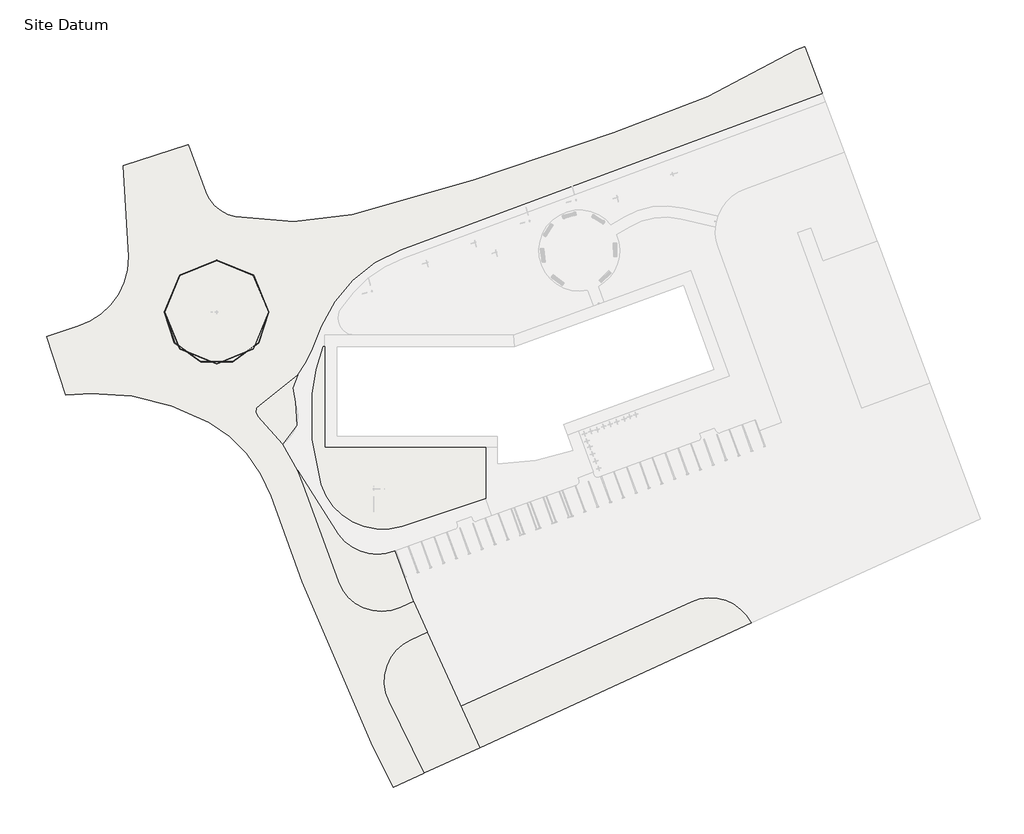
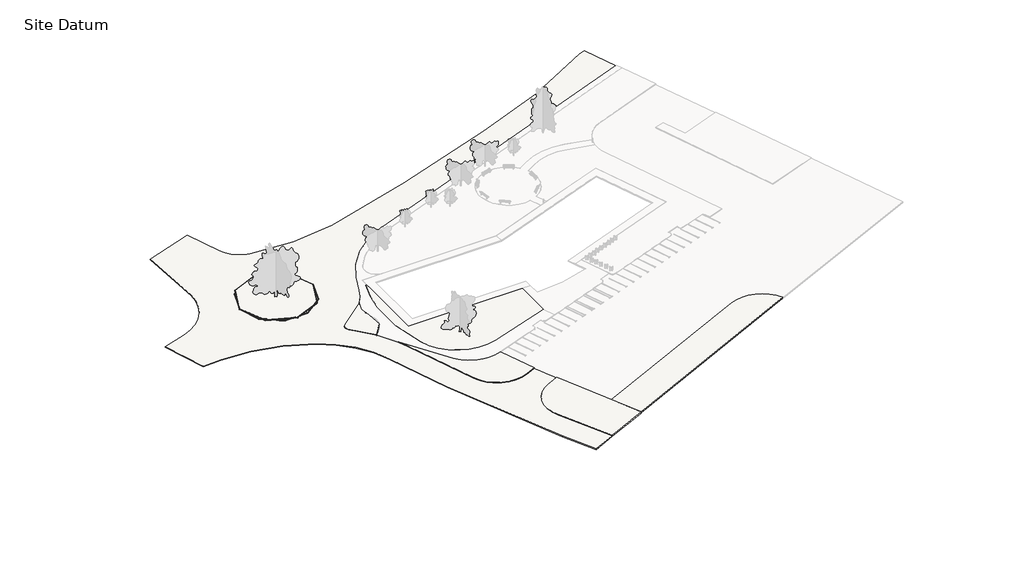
# One storey, part 1 of 3: 6 slabs, 1 proxy.
"""IFC4 building model written with IfcOpenShell, lengths in millimetres."""

import ifcopenshell
import ifcopenshell.guid

model = None  # the IFC model being written
_history = None  # IfcOwnerHistory: only IFC2X3 demands one
_inside = {}  # id of a spatial element -> (the spatial element, [elements in it])
_under = {}  # id of a project, library or spatial element -> (it, [spatial elements below it])
_declared = {}  # id of a project -> (the project, [libraries it declares])
_typed = {}  # id of a type object -> (the type object, [elements of that type])
_made_of = {}  # id of a material, layer set ... -> (it, [elements and type objects made of it])


def new_model(schema):
    """Start an empty IFC model of exactly this schema.

    Asked for "IFC4X3", IfcOpenShell would pick the latest addendum, in which some entities
    have other attributes; the version numbers below select the first issue.
    IFC2X3 requires an IfcOwnerHistory on every rooted entity: one is made here for all.
    """
    global model, _history
    if schema == "IFC4X3":
        model = ifcopenshell.file(schema_version=(4, 3, 0, 0))
    else:
        model = ifcopenshell.file(schema=schema)
    _inside.clear()
    _under.clear()
    _declared.clear()
    _typed.clear()
    _made_of.clear()
    _history = None
    if model.schema == "IFC2X3":
        org = make("IfcOrganization", Name="unknown")
        user = make(
            "IfcPersonAndOrganization",
            ThePerson=make("IfcPerson", FamilyName="unknown"),
            TheOrganization=org,
        )
        app = make(
            "IfcApplication",
            ApplicationDeveloper=org,
            Version="unknown",
            ApplicationFullName="unknown",
            ApplicationIdentifier="unknown",
        )
        _history = make(
            "IfcOwnerHistory",
            OwningUser=user,
            OwningApplication=app,
            ChangeAction="ADDED",
            CreationDate=0,
        )
    return model


def make(cls, **values):
    """One entity of the class cls with the attributes given. An attribute that is None is left unset."""
    return model.create_entity(
        cls, **{name: value for name, value in values.items() if value is not None}
    )


def rooted(cls, **values):
    """An entity with a GlobalId (a new one), such as an element, a storey or a relation."""
    return make(cls, GlobalId=ifcopenshell.guid.new(), OwnerHistory=_history, **values)


def si_unit(unit_type, name, prefix=None):
    """IfcSIUnit, for example si_unit("LENGTHUNIT", "METRE", prefix="MILLI")."""
    return make("IfcSIUnit", UnitType=unit_type, Prefix=prefix, Name=name)


def assignment(units):
    """IfcUnitAssignment: the units of a project."""
    return None if units is None else make("IfcUnitAssignment", Units=units)


def point(xyz):
    """IfcCartesianPoint."""
    return None if xyz is None else make("IfcCartesianPoint", Coordinates=xyz)


def direction(xyz):
    """IfcDirection."""
    return None if xyz is None else make("IfcDirection", DirectionRatios=xyz)


def frame(location, z_axis=None, x_axis=None):
    """IfcAxis2Placement3D, a coordinate frame: its origin and axes. An axis left out is left unset."""
    return make(
        "IfcAxis2Placement3D",
        Location=point(location),
        Axis=direction(z_axis),
        RefDirection=direction(x_axis),
    )


def frame_2d(location, x_axis=None):
    """IfcAxis2Placement2D, a coordinate frame in the plane: its origin and x axis."""
    return make(
        "IfcAxis2Placement2D", Location=point(location), RefDirection=direction(x_axis)
    )


def origin():
    """The frame at (0, 0, 0) with its axes left unset."""
    return frame((0.0, 0.0, 0.0))


def place(relative_to, where):
    """IfcLocalPlacement: puts the frame where relative to a parent placement (None: the world)."""
    return make(
        "IfcLocalPlacement", PlacementRelTo=relative_to, RelativePlacement=where
    )


def context(
    kind, dimensions, precision=None, world=None, true_north=None, identifier=None
):
    """IfcGeometricRepresentationContext, for example the 3D "Model" context."""
    return make(
        "IfcGeometricRepresentationContext",
        ContextIdentifier=identifier,
        ContextType=kind,
        CoordinateSpaceDimension=dimensions,
        Precision=precision,
        WorldCoordinateSystem=world,
        TrueNorth=true_north,
    )


def project(units=None, contexts=None):
    """IfcProject with its units and contexts."""
    return rooted(
        "IfcProject",
        Name="project",
        RepresentationContexts=contexts,
        UnitsInContext=assignment(units),
    )


def spatial(cls, under=None, at=None, **own):
    """A site, building, storey or space (cls), placed at a placement, below another one or the project."""
    s = rooted(cls, ObjectPlacement=at, **own)
    if under is not None:
        _under.setdefault(under.id(), (under, []))[1].append(s)
    return s


def polyline(points):
    """IfcPolyline through the points."""
    return make("IfcPolyline", Points=[point(p) for p in points])


def circle_curve(where, radius):
    """IfcCircle in the frame where."""
    return make("IfcCircle", Position=where, Radius=radius)


def ellipse_curve(where, semi_axis1, semi_axis2):
    """IfcEllipse in the frame where."""
    return make(
        "IfcEllipse", Position=where, SemiAxis1=semi_axis1, SemiAxis2=semi_axis2
    )


def trimmed(basis, trim1, trim2, sense, master):
    """IfcTrimmedCurve: the piece of a basis curve between two trims."""
    return make(
        "IfcTrimmedCurve",
        BasisCurve=basis,
        Trim1=trim1,
        Trim2=trim2,
        SenseAgreement=sense,
        MasterRepresentation=master,
    )


def segment(curve, same_sense, transition):
    """IfcCompositeCurveSegment."""
    return make(
        "IfcCompositeCurveSegment",
        Transition=transition,
        SameSense=same_sense,
        ParentCurve=curve,
    )


def composite_curve(segments, self_intersect=None):
    """IfcCompositeCurve: segments joined end to end."""
    return make("IfcCompositeCurve", Segments=segments, SelfIntersect=self_intersect)


def outline(outer, holes=None, kind="AREA"):
    """IfcArbitraryClosedProfileDef: a profile drawn as a closed curve; with holes, ...WithVoids."""
    if holes is None:
        return make("IfcArbitraryClosedProfileDef", ProfileType=kind, OuterCurve=outer)
    return make(
        "IfcArbitraryProfileDefWithVoids",
        ProfileType=kind,
        OuterCurve=outer,
        InnerCurves=holes,
    )


def extrude(swept, where, along, depth):
    """IfcExtrudedAreaSolid: the profile swept, set in the frame where, extruded along a direction by depth."""
    return make(
        "IfcExtrudedAreaSolid",
        SweptArea=swept,
        Position=where,
        ExtrudedDirection=direction(along),
        Depth=depth,
    )


def shape(context_of_items, identifier, shape_type, items):
    """IfcShapeRepresentation: the items that make up one representation, for example the "Body"."""
    return make(
        "IfcShapeRepresentation",
        ContextOfItems=context_of_items,
        RepresentationIdentifier=identifier,
        RepresentationType=shape_type,
        Items=items,
    )


def made_of(thing, what):
    """Note that an element or type object is made of a material, layer set ...; save() writes the relation."""
    if what is not None:
        _made_of.setdefault(what.id(), (what, []))[1].append(thing)
    return thing


def element(
    cls,
    number,
    at=None,
    inside=None,
    cuts=None,
    type_object=None,
    material=None,
    context=None,
    identifier="Body",
    shape_type=None,
    held_by="IfcProductDefinitionShape",
    body=None,
    shapes=None,
    **own,
):
    """One element of the class cls, such as IfcWall. Its Tag is "e" and its number.

    at: its placement. inside: the storey or other place that contains it. cuts: it is an
    opening in that element (IfcRelVoidsElement). A single representation is given by context,
    identifier, shape_type and body (its items); several are given by shapes. held_by: the class
    of the entity that holds the representations. save() writes the other relations.
    """
    e = rooted(cls, Tag="e%d" % number, ObjectPlacement=at, **own)
    if body is not None:
        shapes = [shape(context, identifier, shape_type, body)]
    if shapes is not None:
        e.Representation = make(held_by, Representations=shapes)
    if inside is not None:
        _inside.setdefault(inside.id(), (inside, []))[1].append(e)
    if cuts is not None:
        rooted(
            "IfcRelVoidsElement", RelatingBuildingElement=cuts, RelatedOpeningElement=e
        )
    if type_object is not None:
        _typed.setdefault(type_object.id(), (type_object, []))[1].append(e)
    return made_of(e, material)


def aggregate(whole, parts):
    """IfcRelAggregates: a whole, such as a stair, and the parts it consists of."""
    return rooted("IfcRelAggregates", RelatingObject=whole, RelatedObjects=parts)


def save(model, path):
    """Write the relations noted so far, then the file.

    IfcRelAggregates (storeys below a building ...), IfcRelContainedInSpatialStructure (elements
    in a storey), IfcRelDefinesByType, IfcRelAssociatesMaterial and IfcRelDeclares: one each for
    every whole, place, type object, material and project.
    """
    for whole, parts in _under.values():
        aggregate(whole, parts)
    for where, things in _inside.values():
        rooted(
            "IfcRelContainedInSpatialStructure",
            RelatedElements=things,
            RelatingStructure=where,
        )
    for kind, things in _typed.values():
        rooted("IfcRelDefinesByType", RelatedObjects=things, RelatingType=kind)
    for what, things in _made_of.values():
        rooted("IfcRelAssociatesMaterial", RelatedObjects=things, RelatingMaterial=what)
    for by, libraries in _declared.values():
        rooted("IfcRelDeclares", RelatingContext=by, RelatedDefinitions=libraries)
    model.write(path)


def plane_surface(at):
    """IfcPlane: the flat surface through the origin of the frame at, square to its z axis."""
    return make("IfcPlane", Position=at)


def cylinder_surface(at, radius):
    """IfcCylindricalSurface: all points at the distance radius from the z axis of the frame at."""
    return make("IfcCylindricalSurface", Position=at, Radius=radius)


def revolved_surface(curve, axis_point, axis_direction):
    """IfcSurfaceOfRevolution: the curve turned about the line through axis_point along axis_direction."""
    return make(
        "IfcSurfaceOfRevolution",
        SweptCurve=make("IfcArbitraryOpenProfileDef", ProfileType="CURVE", Curve=curve),
        AxisPosition=make("IfcAxis1Placement", Location=point(axis_point), Axis=direction(axis_direction)),
    )


def advanced_brep(points, edges, surfaces, faces):
    """IfcAdvancedBrep: a solid bounded by faces that lie on surfaces and meet in shared edges.

    An edge is (start, end): straight between two places in points (the first is 0);
    or (start, end, curve); or (start, end, curve, False) where it runs against its curve.
    A face is (place in surfaces, loops), or (place, loops, False) where it looks against
    its surface's normal. A loop lists edges by number (the first is 1), with a minus sign
    where the edge is run from its end to its start. The first loop is the outer one.
    """
    corners = [point(p) for p in points]
    vertices = [make("IfcVertexPoint", VertexGeometry=c) for c in corners]
    made = []
    for start, end, *more in edges:
        made.append(
            make(
                "IfcEdgeCurve",
                EdgeStart=vertices[start],
                EdgeEnd=vertices[end],
                EdgeGeometry=more[0] if more else make("IfcPolyline", Points=[corners[start], corners[end]]),
                SameSense=more[1] if len(more) > 1 else True,
            )
        )
    hull = []
    for where, loops, *sense in faces:
        bounds = []
        for j, loop in enumerate(loops):
            ring = [make("IfcOrientedEdge", EdgeElement=made[abs(k) - 1], Orientation=k > 0) for k in loop]
            bounds.append(
                make(
                    "IfcFaceOuterBound" if j == 0 else "IfcFaceBound",
                    Bound=make("IfcEdgeLoop", EdgeList=ring),
                    Orientation=True,
                )
            )
        hull.append(make("IfcAdvancedFace", Bounds=bounds, FaceSurface=surfaces[where], SameSense=sense[0] if sense else True))
    return make("IfcAdvancedBrep", Outer=make("IfcClosedShell", CfsFaces=hull))


model = new_model("IFC4")

# Units and contexts
model_context = context("Model", 3, world=origin())
ifc_project = project(units=[si_unit("LENGTHUNIT", "METRE", prefix="MILLI")], contexts=[model_context])

# Site, building, storey
site = spatial("IfcSite", under=ifc_project)
building = spatial("IfcBuilding", under=site)
storey = spatial("IfcBuildingStorey", under=building, Name="Site Datum", Elevation=-150.0)

# Proxy
placement = place(None, origin())
element("IfcBuildingElementProxy", 1, Name="Kerb-45deg-Splay", ObjectType="Kerb-45deg-Splay", at=placement, inside=storey, context=model_context, shape_type="AdvancedBrep", body=[
    advanced_brep(
    [(-30189.953306, 21747.745805, -225.0), (-30189.953306, 21747.745805, -375.0), (-11829.379772, 21747.745805, -375.0), (-11829.379772, 21747.745805, -225.0), (-30185.2670145, 21747.745805, -212.5052912), (-11834.0660635, 21747.745805, -212.5052912), (-30127.4480148, 21747.745805, -154.6862915), (-11891.8850632, 21747.745805, -154.6862915), (-30114.953306, 21747.745805, -150.0), (-11904.379772, 21747.745805, -150.0), (-30064.953306, 21747.745805, -150.0), (-11954.379772, 21747.745805, -150.0), (-30064.953306, 21747.745805, -375.0), (-11954.379772, 21747.745805, -375.0)],
    [
        (0, 1),
        (1, 2, circle_curve(frame((-21009.666539, 21747.745805, -375.0), z_axis=(0.0, 0.0, 1.0), x_axis=(-1.0, 0.0, 0.0)), 9180.286767)),
        (2, 3),
        (3, 0, circle_curve(frame((-21009.666539, 21747.745805, -225.0), z_axis=(0.0, 0.0, -1.0), x_axis=(-1.0, 0.0, 0.0)), 9180.286767)),
        (4, 0, circle_curve(frame((-30170.953306, 21747.745805, -225.0), z_axis=(0.0, -1.0, 0.0), x_axis=(-1.0, 0.0, 0.0)), 19.0)),
        (3, 5, circle_curve(frame((-11848.379772, 21747.745805, -225.0), z_axis=(0.0, -1.0, 0.0), x_axis=(1.0, 0.0, 0.0)), 19.0)),
        (5, 4, circle_curve(frame((-21009.666539, 21747.745805, -212.5052912), z_axis=(0.0, 0.0, -1.0), x_axis=(-1.0, 0.0, 0.0)), 9175.6004755)),
        (6, 4),
        (5, 7),
        (7, 6, circle_curve(frame((-21009.666539, 21747.745805, -154.6862915), z_axis=(0.0, 0.0, -1.0), x_axis=(-1.0, 0.0, 0.0)), 9117.7814758)),
        (8, 6, circle_curve(frame((-30114.953306, 21747.745805, -169.0), z_axis=(0.0, -1.0, 0.0), x_axis=(-1.0, 0.0, 0.0)), 19.0)),
        (7, 9, circle_curve(frame((-11904.379772, 21747.745805, -169.0), z_axis=(0.0, -1.0, 0.0), x_axis=(1.0, 0.0, 0.0)), 19.0)),
        (9, 8, circle_curve(frame((-21009.666539, 21747.745805, -150.0), z_axis=(0.0, 0.0, -1.0), x_axis=(-1.0, 0.0, 0.0)), 9105.286767)),
        (10, 8),
        (9, 11),
        (11, 10, circle_curve(frame((-21009.666539, 21747.745805, -150.0), z_axis=(0.0, 0.0, -1.0), x_axis=(-1.0, 0.0, 0.0)), 9055.286767)),
        (12, 10),
        (11, 13),
        (13, 12, circle_curve(frame((-21009.666539, 21747.745805, -375.0), z_axis=(0.0, 0.0, -1.0), x_axis=(-1.0, 0.0, 0.0)), 9055.286767)),
        (1, 12),
        (13, 2),
        (0, 3, circle_curve(frame((-21009.666539, 21747.745805, -225.0), z_axis=(0.0, 0.0, -1.0), x_axis=(1.0, 0.0, 0.0)), 9180.286767)),
        (2, 1, circle_curve(frame((-21009.666539, 21747.745805, -375.0), z_axis=(0.0, 0.0, 1.0), x_axis=(1.0, 0.0, 0.0)), 9180.286767)),
        (4, 5, circle_curve(frame((-21009.666539, 21747.745805, -212.5052912), z_axis=(0.0, 0.0, -1.0), x_axis=(1.0, 0.0, 0.0)), 9175.6004755)),
        (6, 7, circle_curve(frame((-21009.666539, 21747.745805, -154.6862915), z_axis=(0.0, 0.0, -1.0), x_axis=(1.0, 0.0, 0.0)), 9117.7814758)),
        (8, 9, circle_curve(frame((-21009.666539, 21747.745805, -150.0), z_axis=(0.0, 0.0, -1.0), x_axis=(1.0, 0.0, 0.0)), 9105.286767)),
        (10, 11, circle_curve(frame((-21009.666539, 21747.745805, -150.0), z_axis=(0.0, 0.0, -1.0), x_axis=(1.0, 0.0, 0.0)), 9055.286767)),
        (12, 13, circle_curve(frame((-21009.666539, 21747.745805, -375.0), z_axis=(0.0, 0.0, -1.0), x_axis=(1.0, 0.0, 0.0)), 9055.286767)),
    ],
    [
        cylinder_surface(frame((-21009.666539, 21747.745805, -150.0), z_axis=(0.0, 0.0, 1.0), x_axis=(-1.0, 0.0, 0.0)), 9180.286767),
        revolved_surface(trimmed(ellipse_curve(frame((-30170.953306, 21747.745805, -225.0), z_axis=(0.0, 1.0, 0.0), x_axis=(-1.0, 0.0, 0.0)), 19.0, 19.0), [point((-30189.953306, 21747.745805, -225.0))], [point((-30185.2670145, 21747.745805, -212.5052912))], True, "CARTESIAN"), (-21009.666539, 21747.745805, -150.0), (0.0, 0.0, 1.0)),
        revolved_surface(polyline([(-30185.2670145, 21747.745805, -212.5052912), (-30127.4480148, 21747.745805, -154.6862915)]), (-21009.666539, 21747.745805, -150.0), (0.0, 0.0, 1.0)),
        revolved_surface(trimmed(ellipse_curve(frame((-30114.953306, 21747.745805, -169.0), z_axis=(0.0, 1.0, 0.0), x_axis=(-1.0, 0.0, 0.0)), 19.0, 19.0), [point((-30127.4480148, 21747.745805, -154.6862915))], [point((-30114.953306, 21747.745805, -150.0))], True, "CARTESIAN"), (-21009.666539, 21747.745805, -150.0), (0.0, 0.0, 1.0)),
        plane_surface(frame((-21009.666539, 21747.745805, -150.0), z_axis=(0.0, 0.0, 1.0), x_axis=(-1.0, 0.0, 0.0))),
        revolved_surface(polyline([(-30064.953306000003, 21747.745805, -150.0), (-30064.953306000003, 21747.745805, -375.0)]), (-21009.666539, 21747.745805, -150.0), (0.0, 0.0, 1.0)),
        plane_surface(frame((-21009.666539, 21747.745805, -375.0), z_axis=(0.0, 0.0, -1.0), x_axis=(-1.0, 0.0, 0.0))),
        cylinder_surface(frame((-21009.666539, 21747.745805, -150.0), z_axis=(0.0, 0.0, 1.0), x_axis=(1.0, 0.0, 0.0)), 9180.286767),
        revolved_surface(trimmed(ellipse_curve(frame((-11848.379772, 21747.745805, -225.0), z_axis=(0.0, -1.0, 0.0), x_axis=(1.0, 0.0, 0.0)), 19.0, 19.0), [point((-11829.379772, 21747.745805, -225.0))], [point((-11834.0660635, 21747.745805, -212.5052912))], True, "CARTESIAN"), (-21009.666539, 21747.745805, -150.0), (0.0, 0.0, 1.0)),
        revolved_surface(polyline([(-11834.0660635, 21747.745805, -212.5052912), (-11891.8850632, 21747.745805, -154.6862915)]), (-21009.666539, 21747.745805, -150.0), (0.0, 0.0, 1.0)),
        revolved_surface(trimmed(ellipse_curve(frame((-11904.379772, 21747.745805, -169.0), z_axis=(0.0, -1.0, 0.0), x_axis=(1.0, 0.0, 0.0)), 19.0, 19.0), [point((-11891.8850632, 21747.745805, -154.6862915))], [point((-11904.379772, 21747.745805, -150.0))], True, "CARTESIAN"), (-21009.666539, 21747.745805, -150.0), (0.0, 0.0, 1.0)),
        plane_surface(frame((-21009.666539, 21747.745805, -150.0), z_axis=(0.0, 0.0, 1.0), x_axis=(1.0, 0.0, 0.0))),
        revolved_surface(polyline([(-11954.379772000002, 21747.745805, -150.0), (-11954.379772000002, 21747.745805, -375.0)]), (-21009.666539, 21747.745805, -150.0), (0.0, 0.0, 1.0)),
        plane_surface(frame((-21009.666539, 21747.745805, -375.0), z_axis=(0.0, 0.0, -1.0), x_axis=(1.0, 0.0, 0.0))),
    ],
    [
        (0, [[1, 2, 3, 4]]),
        (1, [[5, -4, 6, 7]]),
        (2, [[8, -7, 9, 10]]),
        (3, [[11, -10, 12, 13]]),
        (4, [[14, -13, 15, 16]]),
        (5, [[17, -16, 18, 19]]),
        (6, [[20, -19, 21, -2]]),
        (7, [[-1, 22, -3, 23]]),
        (8, [[-5, 24, -6, -22]]),
        (9, [[-8, 25, -9, -24]]),
        (10, [[-11, 26, -12, -25]]),
        (11, [[-14, 27, -15, -26]]),
        (12, [[-17, 28, -18, -27]]),
        (13, [[-20, -23, -21, -28]]),
    ],
),
])

# Slabs
element("IfcSlab", 2, ObjectType="HW - Tarmac", at=placement, inside=storey, context=model_context, shape_type="AdvancedBrep", body=[
    advanced_brep(
    [(11319.0750339, 32678.6820825, -450.0), (-2533.7024757, 19294.6457134, -450.0), (-4338.020815, 14901.1084697, -450.0), (-6782.3087816, 10684.1792377, -450.0), (-13370.6260261, 5423.9817174, -450.0), (-13677.6033933, 3456.8833973, -450.0), (-9435.7614518, -1426.1466285, -450.0), (-6798.1354124, -6055.3212881, -450.0), (-5799.3897827, -8524.9988525, -450.0), (396.8756219, -25549.0981323, -450.0), (11218.1465084, -30098.9076557, -450.0), (13513.7889112, -29057.9780616, -450.0), (15991.5863514, -34522.4560646, -450.0), (13141.7967993, -35814.6565738, -450.0), (9263.9835505, -46625.6006781, -450.0), (15449.4516331, -59227.4562362, -450.0), (10003.3009777, -61731.3795276, -450.0), (6179.6913486, -53910.7441689, -450.0), (-5959.7550469, -25627.2253077, -450.0), (-11447.5954439, -10549.507739, -450.0), (-22291.0278787, 2361.3263834, -450.0), (-43022.1126544, 7417.6536252, -450.0), (-47499.188275, 7193.1361933, -450.0), (-50887.1541564, 17493.3754096, -450.0), (-45331.0553512, 19280.9821646, -450.0), (-36432.3803321, 31485.1718586, -450.0), (-37379.0644467, 47476.0554047, -450.0), (-25967.6955075, 51229.4952825, -450.0), (-22901.7336554, 42887.2653682, -450.0), (-17701.7232788, 38523.9385795, -450.0), (2798.2323826, 38874.336945, -450.0), (24093.7234117, 44975.2730799, -450.0), (48744.4877531, 53268.1784141, -450.0), (80861.329586, 67913.9685703, -450.0), (82285.2748138, 68442.2521432, -450.0), (85362.1920702, 60148.6729587, -450.0), (11319.0750339, 32678.6820825, -300.0), (85362.1920702, 60148.6729587, -300.0), (85318.7129019, 60265.8675061, -300.0), (82285.2748138, 68442.2521432, -300.0), (80861.329586, 67913.9685703, -300.0), (48744.4877531, 53268.1784141, -300.0), (24093.7234117, 44975.2730799, -300.0), (2798.2323826, 38874.336945, -300.0), (-17701.7232788, 38523.9385795, -300.0), (-22901.7336556, 42887.2653682, -300.0), (-25967.6955075, 51229.4952825, -300.0), (-37379.0644467, 47476.0554047, -300.0), (-36432.3803321, 31485.1718586, -300.0), (-45331.0553512, 19280.9821647, -300.0), (-50887.1541564, 17493.3754096, -300.0), (-47499.188275, 7193.1361933, -300.0), (-43022.1126544, 7417.6536252, -300.0), (-22291.0278788, 2361.3263834, -300.0), (-11447.5954439, -10549.507739, -300.0), (-5959.7550469, -25627.2253077, -300.0), (6179.6913486, -53910.7441689, -300.0), (10003.3009777, -61731.3795276, -300.0), (15335.8434861, -59279.6887401, -300.0), (15449.4516331, -59227.4562362, -300.0), (9263.9835505, -46625.6006781, -300.0), (13141.7967993, -35814.6565738, -300.0), (15991.5863514, -34522.4560646, -300.0), (15939.9655714, -34408.6127729, -300.0), (13565.4096912, -29171.8213534, -300.0), (13513.7889112, -29057.9780616, -300.0), (11218.1465084, -30098.9076557, -300.0), (396.8756219, -25549.0981323, -300.0), (-5799.3897827, -8524.9988525, -300.0), (-6798.1354124, -6055.3212881, -300.0), (-9435.7614518, -1426.1466285, -300.0), (-13677.6033932, 3456.8833973, -300.0), (-13370.6260261, 5423.9817174, -300.0), (-6782.3087816, 10684.1792377, -300.0), (-4338.020815, 14901.1084698, -300.0), (-2533.7024757, 19294.6457134, -300.0)],
    [
        (0, 1, circle_curve(frame((19667.0753449, 10177.3289941, -450.0), z_axis=(0.0, 0.0, 1.0), x_axis=(1.0, 0.0, 0.0)), 24000.0)),
        (1, 2),
        (2, 3, circle_curve(frame((-21009.666539, 21747.745805, -450.0), z_axis=(0.0, 0.0, -1.0), x_axis=(1.0, 0.0, 0.0)), 18022.7693195)),
        (3, 4, circle_curve(frame((-21009.666539, 21747.745805, -450.0), z_axis=(0.0, 0.0, -1.0), x_axis=(1.0, 0.0, 0.0)), 18022.7693195)),
        (4, 5, circle_curve(frame((-12862.0000512, 4337.1056354, -450.0), z_axis=(0.0, 0.0, 1.0), x_axis=(1.0, 0.0, 0.0)), 1200.0)),
        (5, 6, circle_curve(frame((-34025.202939, -18502.8226128, -450.0), z_axis=(0.0, 0.0, -1.0), x_axis=(1.0, 0.0, 0.0)), 29937.4931369)),
        (6, 7, circle_curve(frame((-34025.202939, -18502.8226128, -450.0), z_axis=(0.0, 0.0, -1.0), x_axis=(1.0, 0.0, 0.0)), 29937.4931369)),
        (7, 8, circle_curve(frame((-34025.202939, -18502.8226128, -450.0), z_axis=(0.0, 0.0, -1.0), x_axis=(1.0, 0.0, 0.0)), 29937.4931369)),
        (8, 9),
        (9, 10, circle_curve(frame((7914.4165879, -22812.9369851, -450.0), z_axis=(0.0, 0.0, 1.0), x_axis=(1.0, 0.0, 0.0)), 8000.0)),
        (10, 11),
        (11, 12),
        (12, 13),
        (13, 14, circle_curve(frame((16445.5267197, -43100.6272444, -450.0), z_axis=(0.0, 0.0, 1.0), x_axis=(1.0, 0.0, 0.0)), 8000.0)),
        (14, 15),
        (15, 16),
        (16, 17),
        (17, 18, circle_curve(frame((250755.3453379, 67809.4299406, -450.0), z_axis=(0.0, 0.0, -1.0), x_axis=(1.0, 0.0, 0.0)), 273190.5036958)),
        (18, 19),
        (19, 20, circle_curve(frame((-34025.202939, -18502.8226128, -450.0), z_axis=(0.0, 0.0, 1.0), x_axis=(1.0, 0.0, 0.0)), 23937.4931369)),
        (20, 21, circle_curve(frame((-41682.9014766, -32118.7233845, -450.0), z_axis=(0.0, 0.0, 1.0), x_axis=(1.0, 0.0, 0.0)), 39559.0519809)),
        (21, 22, circle_curve(frame((-38351.46427, -130469.8718581, -450.0), z_axis=(0.0, 0.0, 1.0), x_axis=(1.0, 0.0, 0.0)), 137966.6069751)),
        (22, 23),
        (23, 24, circle_curve(frame((89485.9913215, -409275.0834808, -450.0), z_axis=(0.0, 0.0, -1.0), x_axis=(1.0, 0.0, 0.0)), 449261.5468467)),
        (24, 25, circle_curve(frame((-49146.430137, 31409.28528, -450.0), z_axis=(0.0, 0.0, 1.0), x_axis=(1.0, 0.0, 0.0)), 12714.2762757)),
        (25, 26, circle_curve(frame((-187156.5339156, 30585.5418824, -450.0), z_axis=(0.0, 0.0, 1.0), x_axis=(1.0, 0.0, 0.0)), 150726.8383784)),
        (26, 27),
        (27, 28),
        (28, 29, circle_curve(frame((-16495.4811586, 45241.7108788, -450.0), z_axis=(0.0, 0.0, 1.0), x_axis=(1.0, 0.0, 0.0)), 6825.2094999)),
        (29, 30, circle_curve(frame((-8339.9186843, 90661.457678, -450.0), z_axis=(0.0, 0.0, 1.0), x_axis=(1.0, 0.0, 0.0)), 52971.3534187)),
        (30, 31, circle_curve(frame((-31901.3515832, 200210.9477904, -450.0), z_axis=(0.0, 0.0, 1.0), x_axis=(1.0, 0.0, 0.0)), 165025.946828)),
        (31, 32, circle_curve(frame((227805.9643753, -519778.0945272, -450.0), z_axis=(0.0, 0.0, -1.0), x_axis=(1.0, 0.0, 0.0)), 600370.7549023)),
        (32, 33, circle_curve(frame((6518.2197062, 188403.9205118, -450.0), z_axis=(0.0, 0.0, 1.0), x_axis=(1.0, 0.0, 0.0)), 141579.4000039)),
        (33, 34),
        (34, 35),
        (35, 0),
        (36, 37),
        (37, 38),
        (38, 39),
        (39, 40),
        (40, 41, circle_curve(frame((6518.2197062, 188403.9205118, -300.0), z_axis=(0.0, 0.0, -1.0), x_axis=(1.0, 0.0, 0.0)), 141579.4000039)),
        (41, 42, circle_curve(frame((227805.9643753, -519778.0945272, -300.0), z_axis=(0.0, 0.0, 1.0), x_axis=(1.0, 0.0, 0.0)), 600370.7549023)),
        (42, 43, circle_curve(frame((-31901.3515832, 200210.9477904, -300.0), z_axis=(0.0, 0.0, -1.0), x_axis=(1.0, 0.0, 0.0)), 165025.946828)),
        (43, 44, circle_curve(frame((-8339.9186843, 90661.457678, -300.0), z_axis=(0.0, 0.0, -1.0), x_axis=(1.0, 0.0, 0.0)), 52971.3534187)),
        (44, 45, circle_curve(frame((-16495.4811586, 45241.7108788, -300.0), z_axis=(0.0, 0.0, -1.0), x_axis=(1.0, 0.0, 0.0)), 6825.2094999)),
        (45, 46),
        (46, 47),
        (47, 48, circle_curve(frame((-187156.5339156, 30585.5418824, -300.0), z_axis=(0.0, 0.0, -1.0), x_axis=(1.0, 0.0, 0.0)), 150726.8383784)),
        (48, 49, circle_curve(frame((-49146.430137, 31409.28528, -300.0), z_axis=(0.0, 0.0, -1.0), x_axis=(1.0, 0.0, 0.0)), 12714.2762757)),
        (49, 50, circle_curve(frame((89485.9913215, -409275.0834808, -300.0), z_axis=(0.0, 0.0, 1.0), x_axis=(1.0, 0.0, 0.0)), 449261.5468467)),
        (50, 51),
        (51, 52, circle_curve(frame((-38351.46427, -130469.8718581, -300.0), z_axis=(0.0, 0.0, -1.0), x_axis=(1.0, 0.0, 0.0)), 137966.6069751)),
        (52, 53, circle_curve(frame((-41682.9014766, -32118.7233845, -300.0), z_axis=(0.0, 0.0, -1.0), x_axis=(1.0, 0.0, 0.0)), 39559.0519809)),
        (53, 54, circle_curve(frame((-34025.202939, -18502.8226128, -300.0), z_axis=(0.0, 0.0, -1.0), x_axis=(1.0, 0.0, 0.0)), 23937.4931369)),
        (54, 55),
        (55, 56, circle_curve(frame((250755.3453379, 67809.4299406, -300.0), z_axis=(0.0, 0.0, 1.0), x_axis=(1.0, 0.0, 0.0)), 273190.5036958)),
        (56, 57),
        (57, 58),
        (58, 59),
        (59, 60),
        (60, 61, circle_curve(frame((16445.5267197, -43100.6272444, -300.0), z_axis=(0.0, 0.0, -1.0), x_axis=(1.0, 0.0, 0.0)), 8000.0)),
        (61, 62),
        (62, 63),
        (63, 64),
        (64, 65),
        (65, 66),
        (66, 67, circle_curve(frame((7914.4165879, -22812.9369851, -300.0), z_axis=(0.0, 0.0, -1.0), x_axis=(1.0, 0.0, 0.0)), 8000.0)),
        (67, 68),
        (68, 69, circle_curve(frame((-34025.202939, -18502.8226128, -300.0), z_axis=(0.0, 0.0, 1.0), x_axis=(1.0, 0.0, 0.0)), 29937.4931369)),
        (69, 70, circle_curve(frame((-34025.202939, -18502.8226128, -300.0), z_axis=(0.0, 0.0, 1.0), x_axis=(1.0, 0.0, 0.0)), 29937.4931369)),
        (70, 71, circle_curve(frame((-34025.202939, -18502.8226128, -300.0), z_axis=(0.0, 0.0, 1.0), x_axis=(1.0, 0.0, 0.0)), 29937.4931369)),
        (71, 72, circle_curve(frame((-12862.0000512, 4337.1056354, -300.0), z_axis=(0.0, 0.0, -1.0), x_axis=(1.0, 0.0, 0.0)), 1200.0)),
        (72, 73, circle_curve(frame((-21009.666539, 21747.745805, -300.0), z_axis=(0.0, 0.0, 1.0), x_axis=(1.0, 0.0, 0.0)), 18022.7693195)),
        (73, 74, circle_curve(frame((-21009.666539, 21747.745805, -300.0), z_axis=(0.0, 0.0, 1.0), x_axis=(1.0, 0.0, 0.0)), 18022.7693195)),
        (74, 75),
        (75, 36, circle_curve(frame((19667.0753449, 10177.3289941, -300.0), z_axis=(0.0, 0.0, -1.0), x_axis=(1.0, 0.0, 0.0)), 24000.0)),
        (0, 36),
        (75, 1),
        (74, 2),
        (73, 3),
        (72, 4),
        (71, 5),
        (70, 6),
        (69, 7),
        (68, 8),
        (67, 9),
        (66, 10),
        (65, 11),
        (62, 12),
        (61, 13),
        (60, 14),
        (59, 15),
        (57, 16),
        (56, 17),
        (55, 18),
        (54, 19),
        (53, 20),
        (52, 21),
        (51, 22),
        (50, 23),
        (49, 24),
        (48, 25),
        (47, 26),
        (46, 27),
        (45, 28),
        (44, 29),
        (43, 30),
        (42, 31),
        (41, 32),
        (40, 33),
        (39, 34),
        (37, 35),
    ],
    [
        plane_surface(frame((43667.0753449, 10177.3289941, -450.0), z_axis=(0.0, 0.0, -1.0), x_axis=(0.0, 1.0, 0.0))),
        plane_surface(frame((43667.0753449, 10177.3289941, -300.0), z_axis=(0.0, 0.0, 1.0), x_axis=(0.0, -1.0, 0.0))),
        revolved_surface(polyline([(43667.075344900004, 10177.3289941, -300.0), (43667.075344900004, 10177.3289941, -450.0)]), (19667.0753449, 10177.3289941, -300.0), (0.0, 0.0, 1.0)),
        plane_surface(frame((-2533.7024757, 19294.6457134, -450.0), z_axis=(0.9250324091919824, -0.3798881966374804, 0.0), x_axis=(0.0, 0.0, 1.0))),
        cylinder_surface(frame((-21009.666539, 21747.745805, -300.0), z_axis=(0.0, 0.0, -1.0), x_axis=(1.0, 0.0, 0.0)), 18022.7693195),
        revolved_surface(polyline([(-11662.0000512, 4337.1056354, -300.0), (-11662.0000512, 4337.1056354, -450.0)]), (-12862.0000512, 4337.1056354, -300.0), (0.0, 0.0, 1.0)),
        cylinder_surface(frame((-34025.202939, -18502.8226128, -300.0), z_axis=(0.0, 0.0, -1.0), x_axis=(1.0, 0.0, 0.0)), 29937.4931369),
        plane_surface(frame((-5799.3897827, -8524.9988525, -450.0), z_axis=(0.9396926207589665, 0.34202014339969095, 0.0), x_axis=(0.0, 0.0, 1.0))),
        revolved_surface(polyline([(15914.4165879, -22812.9369851, -300.0), (15914.4165879, -22812.9369851, -450.0)]), (7914.4165879, -22812.9369851, -300.0), (0.0, 0.0, 1.0)),
        plane_surface(frame((11218.1465084, -30098.9076557, -450.0), z_axis=(-0.41296624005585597, 0.9107463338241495, 0.0), x_axis=(0.0, 0.0, 1.0))),
        plane_surface(frame((13513.7889112, -29057.9780616, -450.0), z_axis=(0.9107463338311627, 0.41296624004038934, 0.0), x_axis=(0.0, 0.0, 1.0))),
        plane_surface(frame((15991.5863514, -34522.4560646, -450.0), z_axis=(0.41296624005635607, -0.9107463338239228, 0.0), x_axis=(0.0, 0.0, 1.0))),
        revolved_surface(polyline([(24445.5267197, -43100.6272444, -300.0), (24445.5267197, -43100.6272444, -450.0)]), (16445.5267197, -43100.6272444, -300.0), (0.0, 0.0, 1.0)),
        plane_surface(frame((9263.9835505, -46625.6006781, -450.0), z_axis=(0.8976928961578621, 0.44062167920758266, 0.0), x_axis=(0.0, 0.0, 1.0))),
        plane_surface(frame((15449.4516331, -59227.4562362, -450.0), z_axis=(0.4177257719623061, -0.9085731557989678, 0.0), x_axis=(0.0, 0.0, 1.0))),
        plane_surface(frame((10003.3009777, -61731.3795276, -450.0), z_axis=(-0.8983758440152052, -0.43922755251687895, 0.0), x_axis=(0.0, 0.0, 1.0))),
        cylinder_surface(frame((250755.3453379, 67809.4299406, -300.0), z_axis=(0.0, 0.0, -1.0), x_axis=(1.0, 0.0, 0.0)), 273190.5036958),
        plane_surface(frame((-5959.7550469, -25627.2253077, -450.0), z_axis=(-0.9396926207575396, -0.3420201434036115, 0.0), x_axis=(0.0, 0.0, 1.0))),
        revolved_surface(polyline([(-10087.709802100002, -18502.8226128, -300.0), (-10087.709802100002, -18502.8226128, -450.0)]), (-34025.202939, -18502.8226128, -300.0), (0.0, 0.0, 1.0)),
        revolved_surface(polyline([(-2123.849495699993, -32118.7233845, -300.0), (-2123.849495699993, -32118.7233845, -450.0)]), (-41682.9014766, -32118.7233845, -300.0), (0.0, 0.0, 1.0)),
        revolved_surface(polyline([(99615.1427051, -130469.8718581, -300.0), (99615.1427051, -130469.8718581, -450.0)]), (-38351.46427, -130469.8718581, -300.0), (0.0, 0.0, 1.0)),
        plane_surface(frame((-47499.188275, 7193.1361933, -450.0), z_axis=(-0.9499332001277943, -0.31245306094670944, 0.0), x_axis=(0.0, 0.0, 1.0))),
        cylinder_surface(frame((89485.9913215, -409275.0834808, -300.0), z_axis=(0.0, 0.0, -1.0), x_axis=(1.0, 0.0, 0.0)), 449261.5468467),
        revolved_surface(polyline([(-36432.1538613, 31409.28528, -300.0), (-36432.1538613, 31409.28528, -450.0)]), (-49146.430137, 31409.28528, -300.0), (0.0, 0.0, 1.0)),
        revolved_surface(polyline([(-36429.69553720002, 30585.5418824, -300.0), (-36429.69553720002, 30585.5418824, -450.0)]), (-187156.5339156, 30585.5418824, -300.0), (0.0, 0.0, 1.0)),
        plane_surface(frame((-37379.0644467, 47476.0554047, -450.0), z_axis=(-0.3124530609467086, 0.9499332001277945, 0.0), x_axis=(0.0, 0.0, 1.0))),
        plane_surface(frame((-25967.6955075, 51229.4952825, -450.0), z_axis=(0.9386162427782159, 0.34496311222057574, 0.0), x_axis=(0.0, 0.0, 1.0))),
        revolved_surface(polyline([(-9670.2716587, 45241.7108788, -300.0), (-9670.2716587, 45241.7108788, -450.0)]), (-16495.4811586, 45241.7108788, -300.0), (0.0, 0.0, 1.0)),
        revolved_surface(polyline([(44631.4347344, 90661.457678, -300.0), (44631.4347344, 90661.457678, -450.0)]), (-8339.9186843, 90661.457678, -300.0), (0.0, 0.0, 1.0)),
        revolved_surface(polyline([(133124.59524479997, 200210.9477904, -300.0), (133124.59524479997, 200210.9477904, -450.0)]), (-31901.3515832, 200210.9477904, -300.0), (0.0, 0.0, 1.0)),
        cylinder_surface(frame((227805.9643753, -519778.0945272, -300.0), z_axis=(0.0, 0.0, -1.0), x_axis=(1.0, 0.0, 0.0)), 600370.7549023),
        revolved_surface(polyline([(148097.6197101, 188403.9205118, -300.0), (148097.6197101, 188403.9205118, -450.0)]), (6518.2197062, 188403.9205118, -300.0), (0.0, 0.0, 1.0)),
        plane_surface(frame((80861.329586, 67913.9685703, -450.0), z_axis=(-0.34783334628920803, 0.9375563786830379, 0.0), x_axis=(0.0, 0.0, 1.0))),
        plane_surface(frame((82285.2748138, 68442.2521432, -450.0), z_axis=(0.9375563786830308, 0.3478333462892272, 0.0), x_axis=(0.0, 0.0, 1.0))),
        plane_surface(frame((85362.1920702, 60148.6729587, -450.0), z_axis=(0.3478333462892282, -0.9375563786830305, 0.0), x_axis=(0.0, 0.0, 1.0))),
    ],
    [
        (0, [[1, 2, 3, 4, 5, 6, 7, 8, 9, 10, 11, 12, 13, 14, 15, 16, 17, 18, 19, 20, 21, 22, 23, 24, 25, 26, 27, 28, 29, 30, 31, 32, 33, 34, 35, 36]]),
        (1, [[37, 38, 39, 40, 41, 42, 43, 44, 45, 46, 47, 48, 49, 50, 51, 52, 53, 54, 55, 56, 57, 58, 59, 60, 61, 62, 63, 64, 65, 66, 67, 68, 69, 70, 71, 72, 73, 74, 75, 76]]),
        (2, [[-1, 77, -76, 78]]),
        (3, [[-2, -78, -75, 79]]),
        (4, [[-3, -79, -74, 80]]),
        (4, [[-4, -80, -73, 81]]),
        (5, [[-5, -81, -72, 82]]),
        (6, [[-6, -82, -71, 83]]),
        (6, [[-7, -83, -70, 84]]),
        (6, [[-8, -84, -69, 85]]),
        (7, [[-9, -85, -68, 86]]),
        (8, [[-10, -86, -67, 87]]),
        (9, [[-11, -87, -66, 88]]),
        (10, [[-12, -88, -65, -64, -63, 89]]),
        (11, [[-13, -89, -62, 90]]),
        (12, [[-14, -90, -61, 91]]),
        (13, [[-15, -91, -60, 92]]),
        (14, [[-16, -92, -59, -58, 93]]),
        (15, [[-17, -93, -57, 94]]),
        (16, [[-18, -94, -56, 95]]),
        (17, [[-19, -95, -55, 96]]),
        (18, [[-20, -96, -54, 97]]),
        (19, [[-21, -97, -53, 98]]),
        (20, [[-22, -98, -52, 99]]),
        (21, [[-23, -99, -51, 100]]),
        (22, [[-24, -100, -50, 101]]),
        (23, [[-25, -101, -49, 102]]),
        (24, [[-26, -102, -48, 103]]),
        (25, [[-27, -103, -47, 104]]),
        (26, [[-28, -104, -46, 105]]),
        (27, [[-29, -105, -45, 106]]),
        (28, [[-30, -106, -44, 107]]),
        (29, [[-31, -107, -43, 108]]),
        (30, [[-32, -108, -42, 109]]),
        (31, [[-33, -109, -41, 110]]),
        (32, [[-34, -110, -40, 111]]),
        (33, [[-35, -111, -39, -38, 112]]),
        (34, [[-36, -112, -37, -77]]),
    ],
),
])
element("IfcSlab", 3, ObjectType="HW - Block Paving Staggered Bond", at=placement, inside=storey, context=model_context, shape_type="SweptSolid", body=[
    extrude(outline(composite_curve([segment(trimmed(circle_curve(frame_2d((65717.0598423, -36447.4594953)), 8000.0), [point((62413.3299219, -29161.4888246))], [point((72854.8615141, -32834.7337523))], False, "CARTESIAN"), True, "CONTINUOUS"), segment(polyline([(72854.8615141, -32834.7337523), (25167.7542164, -54759.3675382), (21892.102352, -47535.3195724), (62413.3299219, -29161.4888246)]), True, "CONTINUOUS")], self_intersect=False)), frame((0.0, 0.0, -400.0), z_axis=(0.0, 0.0, 1.0), x_axis=(1.0, 0.0, 0.0)), (0.0, 0.0, 1.0), 250.0),
])
element("IfcSlab", 4, ObjectType="SW - Grass", at=placement, inside=storey, context=model_context, shape_type="AdvancedBrep", body=[
    advanced_brep(
    [(-2642.8025055, -8500.2270946, -450.0), (-4195.856914, 7441.3832849, -450.0), (-2330.8401022, 15726.3999977, -450.0), (-1999.9999988, 15726.3999977, -450.0), (-1999.9999998, -1999.9999998, -450.0), (26251.8766591, -1999.9999998, -450.0), (26235.8132695, -10959.5697673, -450.0), (11459.4893753, -15883.0044948, -450.0), (-2642.8025055, -8500.2270946, -150.0), (11459.4893753, -15883.0044948, -150.0), (26235.8132695, -10959.5697673, -150.0), (26251.8766591, -1999.9999998, -150.0), (-1999.9999998, -1999.9999998, -150.0), (-1999.9999988, 15726.3999977, -150.0), (-2330.8401022, 15726.3999977, -150.0), (-4195.856914, 7441.3832849, -150.0)],
    [
        (0, 1, circle_curve(frame((34681.860266, 3182.4503372, -450.0), z_axis=(0.0, 0.0, -1.0), x_axis=(1.0, 0.0, 0.0)), 39110.2979148)),
        (1, 2, circle_curve(frame((33467.7934212, 3315.4475825, -450.0), z_axis=(0.0, 0.0, -1.0), x_axis=(1.0, 0.0, 0.0)), 37888.9680777)),
        (2, 3),
        (3, 4),
        (4, 5),
        (5, 6),
        (6, 7),
        (7, 0, circle_curve(frame((8101.4056004, -5137.2732662, -450.0), z_axis=(0.0, 0.0, -1.0), x_axis=(1.0, 0.0, 0.0)), 11258.217722)),
        (8, 9, circle_curve(frame((8101.4056004, -5137.2732662, -150.0), z_axis=(0.0, 0.0, 1.0), x_axis=(1.0, 0.0, 0.0)), 11258.217722)),
        (9, 10),
        (10, 11),
        (11, 12),
        (12, 13),
        (13, 14),
        (14, 15, circle_curve(frame((33467.7934212, 3315.4475825, -150.0), z_axis=(0.0, 0.0, 1.0), x_axis=(1.0, 0.0, 0.0)), 37888.9680777)),
        (15, 8, circle_curve(frame((34681.860266, 3182.4503372, -150.0), z_axis=(0.0, 0.0, 1.0), x_axis=(1.0, 0.0, 0.0)), 39110.2979148)),
        (0, 8),
        (15, 1),
        (14, 2),
        (13, 3),
        (12, 4),
        (11, 5),
        (10, 6),
        (9, 7),
    ],
    [
        plane_surface(frame((73792.1581807, 3182.4503372, -450.0), z_axis=(0.0, 0.0, -1.0), x_axis=(0.0, -1.0, 0.0))),
        plane_surface(frame((73792.1581807, 3182.4503372, -150.0), z_axis=(0.0, 0.0, 1.0), x_axis=(0.0, 1.0, 0.0))),
        cylinder_surface(frame((34681.860266, 3182.4503372, -150.0), z_axis=(0.0, 0.0, -1.0), x_axis=(1.0, 0.0, 0.0)), 39110.2979148),
        cylinder_surface(frame((33467.7934212, 3315.4475825, -150.0), z_axis=(0.0, 0.0, -1.0), x_axis=(1.0, 0.0, 0.0)), 37888.9680777),
        plane_surface(frame((-2330.8401022, 15726.3999977, -450.0), z_axis=(-1.1144847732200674e-10, 1.0, 0.0), x_axis=(0.0, 0.0, 1.0))),
        plane_surface(frame((-1999.9999988, 15726.3999977, -450.0), z_axis=(1.0, -5.6589007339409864e-11, 0.0), x_axis=(0.0, 0.0, 1.0))),
        plane_surface(frame((-1999.9999998, -1999.9999998, -450.0), z_axis=(0.0, 1.0, 0.0), x_axis=(0.0, 0.0, 1.0))),
        plane_surface(frame((26251.8766591, -1999.9999998, -450.0), z_axis=(0.9999983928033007, -0.00179287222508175, 0.0), x_axis=(0.0, 0.0, 1.0))),
        plane_surface(frame((26235.8132695, -10959.5697673, -450.0), z_axis=(0.31611181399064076, -0.9487219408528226, 0.0), x_axis=(0.0, 0.0, 1.0))),
        cylinder_surface(frame((8101.4056004, -5137.2732662, -150.0), z_axis=(0.0, 0.0, -1.0), x_axis=(1.0, 0.0, 0.0)), 11258.217722),
    ],
    [
        (0, [[1, 2, 3, 4, 5, 6, 7, 8]]),
        (1, [[9, 10, 11, 12, 13, 14, 15, 16]]),
        (2, [[-1, 17, -16, 18]]),
        (3, [[-2, -18, -15, 19]]),
        (4, [[-3, -19, -14, 20]]),
        (5, [[-4, -20, -13, 21]]),
        (6, [[-5, -21, -12, 22]]),
        (7, [[-6, -22, -11, 23]]),
        (8, [[-7, -23, -10, 24]]),
        (9, [[-8, -24, -9, -17]]),
    ],
),
])
element("IfcSlab", 5, ObjectType="SW - Grass", at=placement, inside=storey, context=model_context, shape_type="SweptSolid", body=[
    extrude(outline(composite_curve([segment(trimmed(circle_curve(frame_2d((-12862.0000512, 4337.1056354)), 1200.0), [point((-13677.6033933, 3456.8833973))], [point((-13370.6260261, 5423.9817174))], False, "CARTESIAN"), True, "CONTINUOUS"), segment(trimmed(circle_curve(frame_2d((-21009.666539, 21747.745805)), 18022.7693195), [point((-13370.6260261, 5423.9817174))], [point((-6782.3087816, 10684.1792377))], True, "CARTESIAN"), True, "CONTINUOUS"), segment(trimmed(circle_curve(frame_2d((-2883.1840488, 7944.2260418)), 4765.5552875), [point((-6782.3087816, 10684.1792377))], [point((-7225.4587436, 5980.7679513))], True, "CARTESIAN"), True, "CONTINUOUS"), segment(trimmed(circle_curve(frame_2d((-12598.9404573, 3551.0261947)), 5897.2833349), [point((-7225.4587436, 5980.7679513))], [point((-9435.7614518, -1426.1466285))], False, "CARTESIAN"), True, "CONTINUOUS"), segment(trimmed(circle_curve(frame_2d((-34025.202939, -18502.8226128)), 29937.4931369), [point((-9435.7614518, -1426.1466285))], [point((-13677.6033933, 3456.8833973))], True, "CARTESIAN"), True, "CONTINUOUS")], self_intersect=False)), frame((0.0, 0.0, -450.0), z_axis=(0.0, 0.0, 1.0), x_axis=(1.0, 0.0, 0.0)), (0.0, 0.0, 1.0), 300.0),
])
element("IfcSlab", 6, ObjectType="SW - Grass", at=placement, inside=storey, context=model_context, shape_type="SweptSolid", body=[
    extrude(outline(composite_curve([segment(trimmed(circle_curve(frame_2d((7914.4165879, -22812.9369851)), 8000.0), [point((11218.1465084, -30098.9076557))], [point((396.8756218, -25549.0981323))], False, "CARTESIAN"), True, "CONTINUOUS"), segment(polyline([(396.8756218, -25549.0981323), (-5799.3897827, -8524.9988525)]), True, "CONTINUOUS"), segment(trimmed(circle_curve(frame_2d((-34025.202939, -18502.8226128)), 29937.4931369), [point((-5799.3897827, -8524.9988525))], [point((-6798.1354124, -6055.3212881))], True, "CARTESIAN"), True, "CONTINUOUS"), segment(trimmed(circle_curve(frame_2d((70084.3302911, 34844.0146056)), 87084.264992), [point((-6798.1354124, -6055.3212881))], [point((361.689646, -17332.8249947))], True, "CARTESIAN"), True, "CONTINUOUS"), segment(trimmed(circle_curve(frame_2d((7234.2316265, -12189.7679154)), 8583.872634), [point((361.689646, -17332.8249947))], [point((10293.394387, -20210.0168268))], True, "CARTESIAN"), True, "CONTINUOUS"), segment(polyline([(10293.394387, -20210.0168268), (13513.7889112, -29057.9780616), (11218.1465084, -30098.9076557)]), True, "CONTINUOUS")], self_intersect=False)), frame((0.0, 0.0, -450.0), z_axis=(0.0, 0.0, 1.0), x_axis=(1.0, 0.0, 0.0)), (0.0, 0.0, 1.0), 300.0),
    extrude(outline(composite_curve([segment(polyline([(15991.5863515, -34522.4560646), (25167.7542164, -54759.3675382), (15449.4516331, -59227.4562362), (9263.9835504, -46625.6006782)]), True, "CONTINUOUS"), segment(trimmed(circle_curve(frame_2d((16445.5267197, -43100.6272444)), 8000.0), [point((9263.9835504, -46625.6006782))], [point((13141.7967993, -35814.6565738))], False, "CARTESIAN"), True, "CONTINUOUS"), segment(polyline([(13141.7967993, -35814.6565738), (15991.5863515, -34522.4560646)]), True, "CONTINUOUS")], self_intersect=False)), frame((0.0, 0.0, -450.0), z_axis=(0.0, 0.0, 1.0), x_axis=(1.0, 0.0, 0.0)), (0.0, 0.0, 1.0), 300.0),
])
element("IfcSlab", 7, ObjectType="SW - Grass", at=placement, inside=storey, context=model_context, shape_type="SweptSolid", body=[
    extrude(outline(composite_curve([segment(trimmed(circle_curve(frame_2d((-21009.666539, 21747.745805)), 9055.286767), [point((-30064.953306, 21747.745805))], [point((-11954.379772, 21747.745805))], False, "CARTESIAN"), True, "CONTINUOUS"), segment(trimmed(circle_curve(frame_2d((-21009.666539, 21747.745805)), 9055.286767), [point((-11954.379772, 21747.745805))], [point((-30064.953306, 21747.745805))], False, "CARTESIAN"), True, "CONTINUOUS")], self_intersect=False)), frame((0.0, 0.0, -450.0), z_axis=(0.0, 0.0, 1.0), x_axis=(1.0, 0.0, 0.0)), (0.0, 0.0, 1.0), 300.0),
])

save(model, "model.ifc")
